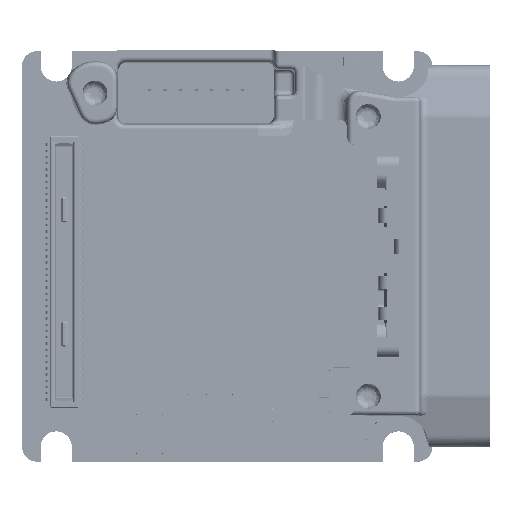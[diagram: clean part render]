
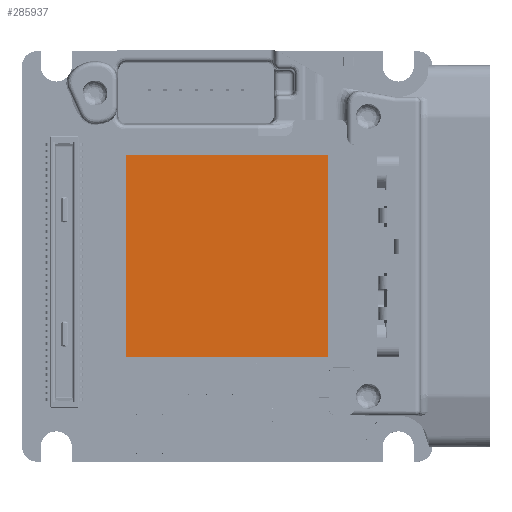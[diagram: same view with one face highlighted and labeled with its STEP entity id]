
A CAD part, top view. The second image highlights one B-rep face of the part: STEP entity #285937.
In plain terms, the highlighted planar face has unit normal (0, 0, 1).
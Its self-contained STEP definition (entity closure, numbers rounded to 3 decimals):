
#7596 = CARTESIAN_POINT ( 'NONE',  ( 6.5, -6.5, 6.162 ) ) ;
#16443 = EDGE_CURVE ( 'NONE', #647106, #592168, #598651, .T. ) ;
#68532 = CARTESIAN_POINT ( 'NONE',  ( -6.5, -6.5, 6.162 ) ) ;
#69670 = LINE ( 'NONE', #133537, #160859 ) ;
#133537 = CARTESIAN_POINT ( 'NONE',  ( 6.5, 6.5, 6.162 ) ) ;
#144564 = EDGE_CURVE ( 'NONE', #592168, #260231, #752470, .T. ) ;
#160859 = VECTOR ( 'NONE', #245851, 1000. ) ;
#168760 = EDGE_LOOP ( 'NONE', ( #672937, #592508, #433945, #501973 ) ) ;
#192773 = DIRECTION ( 'NONE',  ( 1., 0., 0. ) ) ;
#208118 = EDGE_CURVE ( 'NONE', #260231, #220069, #69670, .T. ) ;
#220069 = VERTEX_POINT ( 'NONE', #520951 ) ;
#226430 = CARTESIAN_POINT ( 'NONE',  ( -6.5, -6.5, 6.162 ) ) ;
#245851 = DIRECTION ( 'NONE',  ( 0., -1., 0. ) ) ;
#260231 = VERTEX_POINT ( 'NONE', #516779 ) ;
#264499 = DIRECTION ( 'NONE',  ( 1., 0., 0. ) ) ;
#281653 = VECTOR ( 'NONE', #714706, 1000. ) ;
#285937 = ADVANCED_FACE ( 'NONE', ( #668513 ), #504246, .T. ) ;
#326594 = AXIS2_PLACEMENT_3D ( 'NONE', #68532, #688302, #264499 ) ;
#358643 = CARTESIAN_POINT ( 'NONE',  ( -6.5, -6.5, 6.162 ) ) ;
#359695 = DIRECTION ( 'NONE',  ( -1., 0., 0. ) ) ;
#433945 = ORIENTED_EDGE ( 'NONE', *, *, #144564, .F. ) ;
#489217 = EDGE_CURVE ( 'NONE', #220069, #647106, #555352, .T. ) ;
#501973 = ORIENTED_EDGE ( 'NONE', *, *, #16443, .F. ) ;
#504246 = PLANE ( 'NONE',  #326594 ) ;
#516779 = CARTESIAN_POINT ( 'NONE',  ( 6.5, 6.5, 6.162 ) ) ;
#520951 = CARTESIAN_POINT ( 'NONE',  ( 6.5, -6.5, 6.162 ) ) ;
#555352 = LINE ( 'NONE', #7596, #697518 ) ;
#556595 = CARTESIAN_POINT ( 'NONE',  ( -6.5, 6.5, 6.162 ) ) ;
#592168 = VERTEX_POINT ( 'NONE', #627490 ) ;
#592508 = ORIENTED_EDGE ( 'NONE', *, *, #208118, .F. ) ;
#598651 = LINE ( 'NONE', #358643, #281653 ) ;
#627490 = CARTESIAN_POINT ( 'NONE',  ( -6.5, 6.5, 6.162 ) ) ;
#647106 = VERTEX_POINT ( 'NONE', #226430 ) ;
#659919 = VECTOR ( 'NONE', #192773, 1000. ) ;
#668513 = FACE_OUTER_BOUND ( 'NONE', #168760, .T. ) ;
#672937 = ORIENTED_EDGE ( 'NONE', *, *, #489217, .F. ) ;
#688302 = DIRECTION ( 'NONE',  ( 0., 0., 1. ) ) ;
#697518 = VECTOR ( 'NONE', #359695, 1000. ) ;
#714706 = DIRECTION ( 'NONE',  ( 0., 1., 0. ) ) ;
#752470 = LINE ( 'NONE', #556595, #659919 ) ;
